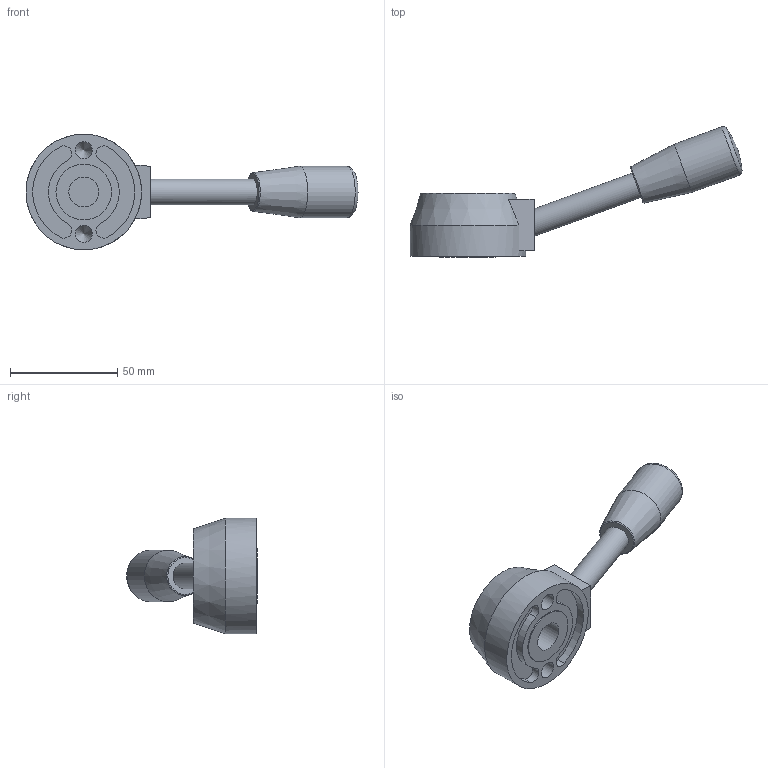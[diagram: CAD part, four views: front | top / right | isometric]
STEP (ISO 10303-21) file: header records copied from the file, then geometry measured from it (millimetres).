
FILE_DESCRIPTION( ( 'STEP AP203' ), '1' );
FILE_NAME( 'C:/Temp/Ganter_Step_05_03_2020/data/2_1/gn_512/gn_512_b/Control lever GN 512-54-B14.stp', '2020-03-05T11:51:37', ( 'License CC BY-ND 4.0' ), ( 'CADENAS' ), ' ', 'PARTsolutions', ' ' );
FILE_SCHEMA( ( 'CONFIG_CONTROL_DESIGN' ) );
Length unit declared in the file: millimetre
Products named in the file (1): _Control lever GN 512-54-B14
Bounding box: 155.09 x 61.04 x 54 mm (x, y, z)
Volume: 81498.4 mm3; surface area: 18351 mm2
Topology: 1 solids, 1 shells, 36 faces, 81 edges, 53 vertices
Faces by surface type: cylinder 16, plane 13, cone 4, torus 2, sphere 1
Full cylindrical faces by diameter (mm): 8 x2, 12 x1, 14 x1, 24 x1, 26 x1, 31 x1, 54 x1
Entity records: 930 total; most frequent: DIRECTION 168, CARTESIAN_POINT 149, ORIENTED_EDGE 116, AXIS2_PLACEMENT_3D 75, EDGE_CURVE 58, EDGE_LOOP 57, VERTEX_POINT 48, FACE_OUTER_BOUND 46
